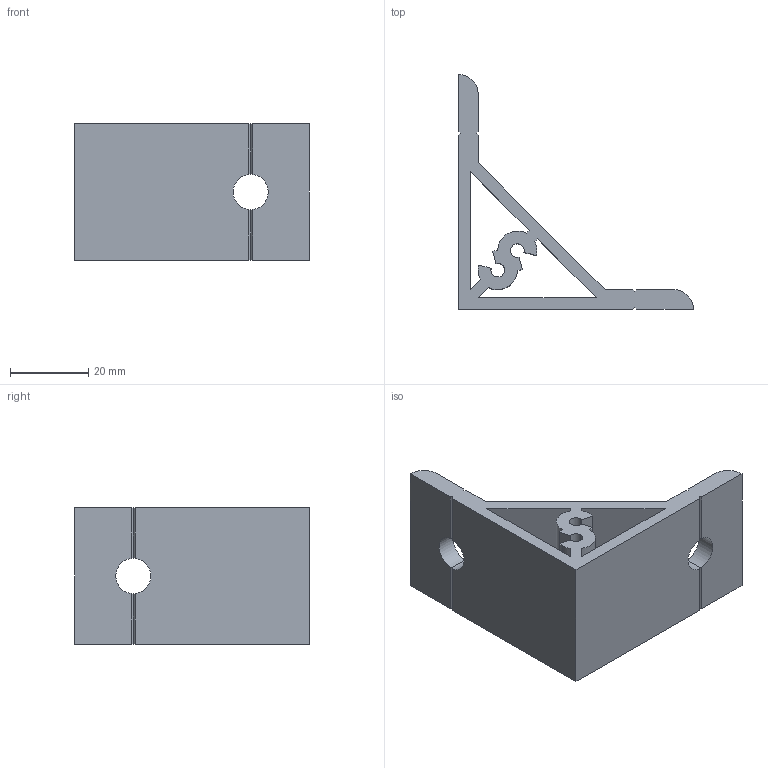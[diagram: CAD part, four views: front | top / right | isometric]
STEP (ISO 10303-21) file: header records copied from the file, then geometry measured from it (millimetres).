
FILE_DESCRIPTION (( 'STEP AP203' ), '1' );
FILE_NAME ('WL3560-8.STEP', '2024-02-19T06:13:46', ( '' ), ( '' ), 'SwSTEP 2.0', 'SolidWorks 2022', '' );
FILE_SCHEMA (( 'CONFIG_CONTROL_DESIGN' ));
Length unit declared in the file: millimetre
Products named in the file (1): WL3560-8
Bounding box: 60 x 60 x 35 mm (x, y, z)
Volume: 23416.7 mm3; surface area: 15111.9 mm2
Topology: 1 solids, 1 shells, 58 faces, 172 edges, 112 vertices
Faces by surface type: plane 39, cylinder 19
Entity records: 2023 total; most frequent: CARTESIAN_POINT 391, ORIENTED_EDGE 344, DIRECTION 312, EDGE_CURVE 172, LINE 118, VECTOR 118, VERTEX_POINT 112, AXIS2_PLACEMENT_3D 97
